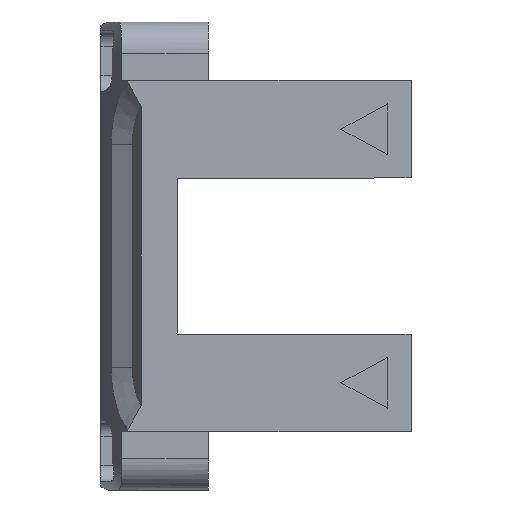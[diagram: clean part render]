
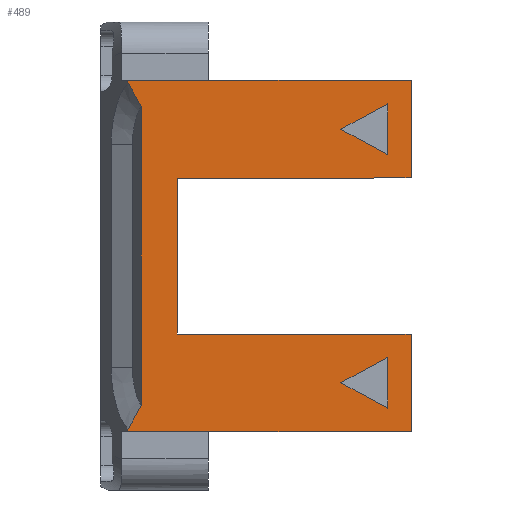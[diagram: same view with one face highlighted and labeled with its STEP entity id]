
A CAD part, front view. The second image highlights one B-rep face of the part: STEP entity #489.
In plain terms, the highlighted planar face has unit normal (0, -1, 0).
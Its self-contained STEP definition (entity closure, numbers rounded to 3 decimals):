
#199=B_SPLINE_CURVE_WITH_KNOTS('',3,(#2097,#2098,#2099,#2100),.UNSPECIFIED.,
 .F.,.F.,(4,4),(0.,1.),.UNSPECIFIED.);
#200=B_SPLINE_CURVE_WITH_KNOTS('',3,(#2104,#2105,#2106,#2107),.UNSPECIFIED.,
 .F.,.F.,(4,4),(0.,1.),.UNSPECIFIED.);
#209=LINE('',#2088,#348);
#210=LINE('',#2091,#349);
#211=LINE('',#2093,#350);
#212=LINE('',#2094,#351);
#213=LINE('',#2102,#352);
#214=LINE('',#2109,#353);
#215=LINE('',#2111,#354);
#216=LINE('',#2113,#355);
#217=LINE('',#2115,#356);
#218=LINE('',#2117,#357);
#219=LINE('',#2119,#358);
#220=LINE('',#2121,#359);
#221=LINE('',#2123,#360);
#222=LINE('',#2124,#361);
#223=LINE('',#2127,#362);
#224=LINE('',#2129,#363);
#348=VECTOR('',#1683,1.);
#349=VECTOR('',#1684,1.);
#350=VECTOR('',#1685,1.);
#351=VECTOR('',#1686,1.);
#352=VECTOR('',#1687,1.);
#353=VECTOR('',#1688,1.);
#354=VECTOR('',#1689,1.);
#355=VECTOR('',#1690,1.);
#356=VECTOR('',#1691,1.);
#357=VECTOR('',#1692,1.);
#358=VECTOR('',#1693,1.);
#359=VECTOR('',#1694,1.);
#360=VECTOR('',#1695,1.);
#361=VECTOR('',#1696,1.);
#362=VECTOR('',#1697,1.);
#363=VECTOR('',#1698,1.);
#489=ADVANCED_FACE('',(#619,#620,#621),#566,.F.);
#566=PLANE('',#1540);
#619=FACE_BOUND('',#646,.T.);
#620=FACE_BOUND('',#647,.T.);
#621=FACE_BOUND('',#648,.T.);
#646=EDGE_LOOP('',(#737,#738,#739));
#647=EDGE_LOOP('',(#740,#741,#742,#743,#744,#745,#746,#747,#748,#749,#750,
#751));
#648=EDGE_LOOP('',(#752,#753,#754));
#737=ORIENTED_EDGE('',*,*,#1287,.F.);
#738=ORIENTED_EDGE('',*,*,#1288,.F.);
#739=ORIENTED_EDGE('',*,*,#1289,.F.);
#740=ORIENTED_EDGE('',*,*,#1290,.F.);
#741=ORIENTED_EDGE('',*,*,#1291,.T.);
#742=ORIENTED_EDGE('',*,*,#1292,.F.);
#743=ORIENTED_EDGE('',*,*,#1293,.T.);
#744=ORIENTED_EDGE('',*,*,#1294,.F.);
#745=ORIENTED_EDGE('',*,*,#1295,.F.);
#746=ORIENTED_EDGE('',*,*,#1296,.F.);
#747=ORIENTED_EDGE('',*,*,#1297,.F.);
#748=ORIENTED_EDGE('',*,*,#1298,.F.);
#749=ORIENTED_EDGE('',*,*,#1299,.T.);
#750=ORIENTED_EDGE('',*,*,#1300,.T.);
#751=ORIENTED_EDGE('',*,*,#1301,.T.);
#752=ORIENTED_EDGE('',*,*,#1302,.F.);
#753=ORIENTED_EDGE('',*,*,#1303,.F.);
#754=ORIENTED_EDGE('',*,*,#1304,.F.);
#1147=VERTEX_POINT('',#2089);
#1148=VERTEX_POINT('',#2090);
#1149=VERTEX_POINT('',#2092);
#1150=VERTEX_POINT('',#2095);
#1151=VERTEX_POINT('',#2096);
#1152=VERTEX_POINT('',#2101);
#1153=VERTEX_POINT('',#2103);
#1154=VERTEX_POINT('',#2108);
#1155=VERTEX_POINT('',#2110);
#1156=VERTEX_POINT('',#2112);
#1157=VERTEX_POINT('',#2114);
#1158=VERTEX_POINT('',#2116);
#1159=VERTEX_POINT('',#2118);
#1160=VERTEX_POINT('',#2120);
#1161=VERTEX_POINT('',#2122);
#1162=VERTEX_POINT('',#2125);
#1163=VERTEX_POINT('',#2126);
#1164=VERTEX_POINT('',#2128);
#1287=EDGE_CURVE('',#1147,#1148,#209,.T.);
#1288=EDGE_CURVE('',#1149,#1147,#210,.T.);
#1289=EDGE_CURVE('',#1148,#1149,#211,.T.);
#1290=EDGE_CURVE('',#1150,#1151,#212,.T.);
#1291=EDGE_CURVE('',#1150,#1152,#199,.T.);
#1292=EDGE_CURVE('',#1153,#1152,#213,.T.);
#1293=EDGE_CURVE('',#1153,#1154,#200,.T.);
#1294=EDGE_CURVE('',#1155,#1154,#214,.T.);
#1295=EDGE_CURVE('',#1156,#1155,#215,.T.);
#1296=EDGE_CURVE('',#1157,#1156,#216,.T.);
#1297=EDGE_CURVE('',#1158,#1157,#217,.T.);
#1298=EDGE_CURVE('',#1159,#1158,#218,.T.);
#1299=EDGE_CURVE('',#1159,#1160,#219,.T.);
#1300=EDGE_CURVE('',#1160,#1161,#220,.T.);
#1301=EDGE_CURVE('',#1161,#1151,#221,.T.);
#1302=EDGE_CURVE('',#1162,#1163,#222,.T.);
#1303=EDGE_CURVE('',#1164,#1162,#223,.T.);
#1304=EDGE_CURVE('',#1163,#1164,#224,.T.);
#1540=AXIS2_PLACEMENT_3D('',#2130,#1699,#1700);
#1683=DIRECTION('',(1.,0.,0.));
#1684=DIRECTION('',(-0.476,0.,-0.879));
#1685=DIRECTION('',(-0.476,0.,0.879));
#1686=DIRECTION('',(1.,0.,0.));
#1687=DIRECTION('',(1.,0.,0.));
#1688=DIRECTION('',(1.,0.,0.));
#1689=DIRECTION('',(0.,0.,1.));
#1690=DIRECTION('',(-1.,0.,0.));
#1691=DIRECTION('',(0.,0.,-1.));
#1692=DIRECTION('',(-1.,0.,0.));
#1693=DIRECTION('',(0.,0.,-1.));
#1694=DIRECTION('',(1.,0.,0.));
#1695=DIRECTION('',(0.,0.,1.));
#1696=DIRECTION('',(1.,0.,0.));
#1697=DIRECTION('',(-0.476,0.,-0.879));
#1698=DIRECTION('',(-0.476,0.,0.879));
#1699=DIRECTION('',(0.,1.,0.));
#1700=DIRECTION('',(0.,0.,-1.));
#2088=CARTESIAN_POINT('',(67.288,21.799,17.888));
#2089=CARTESIAN_POINT('',(70.288,21.799,17.888));
#2090=CARTESIAN_POINT('',(76.788,21.799,17.888));
#2091=CARTESIAN_POINT('',(80.915,21.799,37.507));
#2092=CARTESIAN_POINT('',(73.538,21.799,23.888));
#2093=CARTESIAN_POINT('',(63.326,21.799,42.742));
#2094=CARTESIAN_POINT('',(109.788,21.799,51.177));
#2095=CARTESIAN_POINT('',(112.009,21.799,51.177));
#2096=CARTESIAN_POINT('',(112.288,21.799,51.177));
#2097=CARTESIAN_POINT('',(112.009,21.799,51.177));
#2098=CARTESIAN_POINT('',(110.995,21.799,50.602));
#2099=CARTESIAN_POINT('',(109.978,21.799,50.031));
#2100=CARTESIAN_POINT('',(108.951,21.799,49.479));
#2101=CARTESIAN_POINT('',(108.951,21.799,49.479));
#2102=CARTESIAN_POINT('',(109.788,21.799,49.479));
#2103=CARTESIAN_POINT('',(70.626,21.799,49.479));
#2104=CARTESIAN_POINT('',(70.626,21.799,49.479));
#2105=CARTESIAN_POINT('',(69.599,21.799,50.031));
#2106=CARTESIAN_POINT('',(68.582,21.799,50.602));
#2107=CARTESIAN_POINT('',(67.568,21.799,51.177));
#2108=CARTESIAN_POINT('',(67.568,21.799,51.177));
#2109=CARTESIAN_POINT('',(109.788,21.799,51.177));
#2110=CARTESIAN_POINT('',(67.288,21.799,51.177));
#2111=CARTESIAN_POINT('',(67.288,21.799,24.888));
#2112=CARTESIAN_POINT('',(67.288,21.799,14.888));
#2113=CARTESIAN_POINT('',(79.788,21.799,14.888));
#2114=CARTESIAN_POINT('',(79.788,21.799,14.888));
#2115=CARTESIAN_POINT('',(79.788,21.799,68.738));
#2116=CARTESIAN_POINT('',(79.788,21.799,44.888));
#2117=CARTESIAN_POINT('',(69.788,21.799,44.888));
#2118=CARTESIAN_POINT('',(99.788,21.799,44.888));
#2119=CARTESIAN_POINT('',(99.788,21.799,68.738));
#2120=CARTESIAN_POINT('',(99.788,21.799,14.888));
#2121=CARTESIAN_POINT('',(99.788,21.799,14.888));
#2122=CARTESIAN_POINT('',(112.288,21.799,14.888));
#2123=CARTESIAN_POINT('',(112.288,21.799,24.888));
#2124=CARTESIAN_POINT('',(99.788,21.799,17.888));
#2125=CARTESIAN_POINT('',(102.788,21.799,17.888));
#2126=CARTESIAN_POINT('',(109.288,21.799,17.888));
#2127=CARTESIAN_POINT('',(113.415,21.799,37.507));
#2128=CARTESIAN_POINT('',(106.038,21.799,23.888));
#2129=CARTESIAN_POINT('',(95.826,21.799,42.742));
#2130=CARTESIAN_POINT('',(109.788,21.799,68.738));
